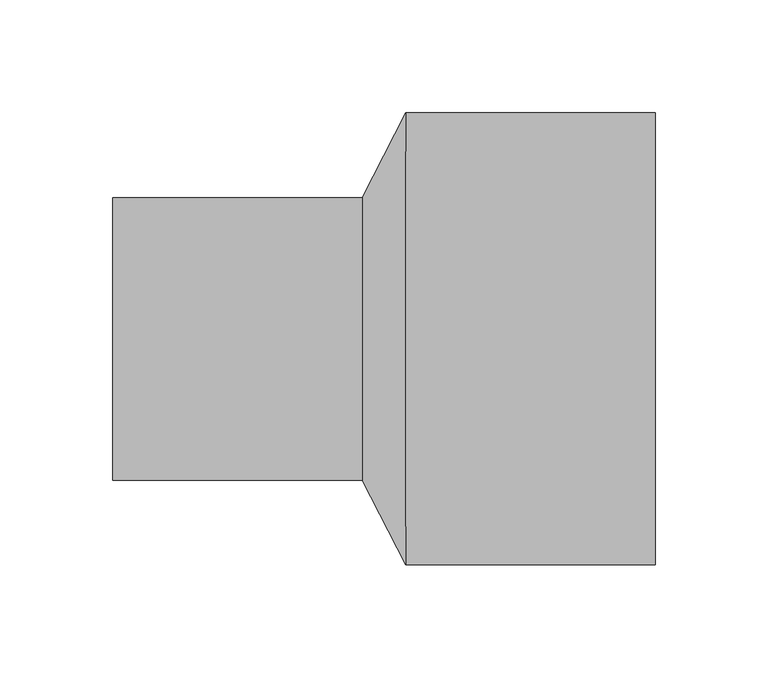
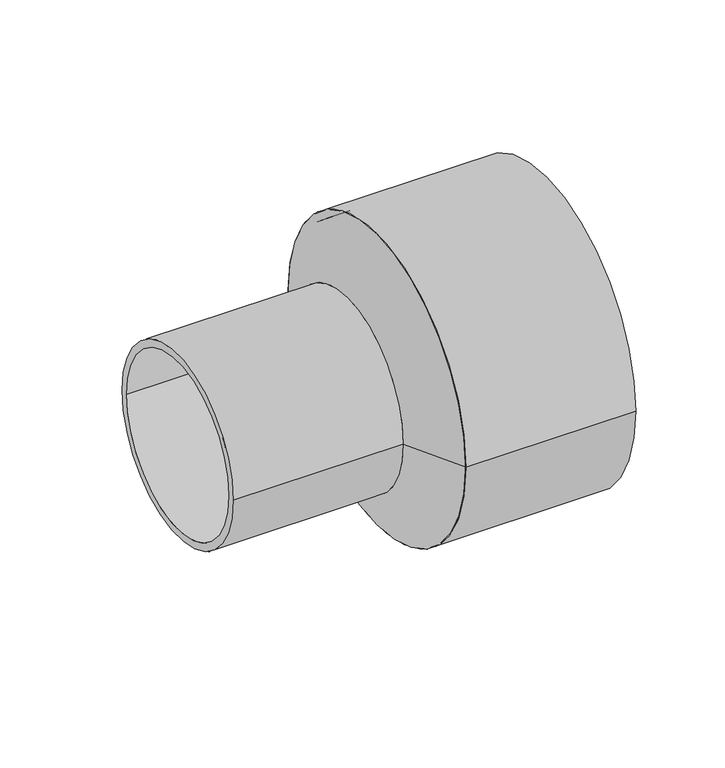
"""IFC4 building model written with IfcOpenShell, lengths in millimetres: pipe fitting geometry, EGB_VASEN_ PPR_Manguito reductor a tope WXRB110 : Manguito reductor a tope WXRB110."""

from ifc_helpers import new_model, si_unit, point, frame, origin, origin_2d, place, context, project, spatial, polyline, circle_curve, trimmed, segment, composite_curve, outline, extrude, source, transform, mapped, element, save
from ifc_brep_helpers import plane_surface, revolved_surface, advanced_brep


def pipe_fitting_ced41f43(model_context):
    return source(origin(), model_context, "Body", "SolidModel", [
        extrude(outline(composite_curve([segment(trimmed(circle_curve(origin_2d(), 100.0), [point((-100.0, 0.0))], [point((100.0, 0.0))], False, "CARTESIAN"), True, "CONTINUOUS"), segment(trimmed(circle_curve(origin_2d(), 100.0), [point((100.0, 0.0))], [point((-100.0, 0.0))], False, "CARTESIAN"), True, "CONTINUOUS")], self_intersect=False), holes=[composite_curve([segment(trimmed(circle_curve(origin_2d(), 95.0), [point((-95.0, 0.0))], [point((95.0, 0.0))], True, "CARTESIAN"), True, "CONTINUOUS"), segment(trimmed(circle_curve(origin_2d(), 95.0), [point((95.0, 0.0))], [point((-95.0, 0.0))], True, "CARTESIAN"), True, "CONTINUOUS")], self_intersect=False)]), frame((9.6, 0.0, 0.0), z_axis=(1.0, 0.0, 0.0), x_axis=(0.0, 1.0, 0.0)), (0.0, 0.0, 1.0), 110.4),
        extrude(outline(composite_curve([segment(trimmed(circle_curve(origin_2d(), 62.5), [point((-62.5, 0.0))], [point((62.5, 0.0))], False, "CARTESIAN"), True, "CONTINUOUS"), segment(trimmed(circle_curve(origin_2d(), 62.5), [point((62.5, 0.0))], [point((-62.5, 0.0))], False, "CARTESIAN"), True, "CONTINUOUS")], self_intersect=False), holes=[composite_curve([segment(trimmed(circle_curve(origin_2d(), 57.5), [point((-57.5, 0.0))], [point((57.5, 0.0))], True, "CARTESIAN"), True, "CONTINUOUS"), segment(trimmed(circle_curve(origin_2d(), 57.5), [point((57.5, 0.0))], [point((-57.5, 0.0))], True, "CARTESIAN"), True, "CONTINUOUS")], self_intersect=False)]), frame((-120.0, 0.0, 0.0), z_axis=(1.0, 0.0, 0.0), x_axis=(0.0, 1.0, 0.0)), (0.0, 0.0, 1.0), 110.4),
        advanced_brep(
        [(9.6, -100.0, 0.0), (9.6, 100.0, 0.0), (-9.6, -62.5, 0.0), (-9.6, 62.5, 0.0)],
        [
            (0, 1, circle_curve(frame((9.6, 0.0, 0.0), z_axis=(1.0, 0.0, 0.0), x_axis=(0.0, -1.0, 0.0)), 100.0)),
            (1, 0, circle_curve(frame((9.6, 0.0, 0.0), z_axis=(1.0, 0.0, 0.0), x_axis=(0.0, 1.0, 0.0)), 100.0)),
            (2, 3, circle_curve(frame((-9.6, 0.0, 0.0), z_axis=(-1.0, 0.0, 0.0), x_axis=(0.0, 1.0, 0.0)), 62.5)),
            (3, 2, circle_curve(frame((-9.6, 0.0, 0.0), z_axis=(-1.0, 0.0, 0.0), x_axis=(0.0, -1.0, 0.0)), 62.5)),
            (3, 1),
            (0, 2),
        ],
        [
            plane_surface(frame((9.6, 0.0, 0.0), z_axis=(1.0, 0.0, 0.0), x_axis=(0.0, 0.0, -1.0))),
            plane_surface(frame((-9.6, 0.0, 0.0), z_axis=(-1.0, 0.0, 0.0), x_axis=(0.0, 0.0, -1.0))),
            revolved_surface(polyline([(-9.600000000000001, 62.5, 0.0), (9.600000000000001, 100.0, 0.0)]), (-41.6, 0.0, 0.0), (1.0, 0.0, 0.0)),
            revolved_surface(polyline([(-9.600000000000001, -62.5, 0.0), (9.600000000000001, -100.0, 0.0)]), (-41.6, 0.0, 0.0), (1.0, 0.0, 0.0)),
        ],
        [
            (0, [[1, 2]]),
            (1, [[3, 4]]),
            (2, [[-4, 5, -1, 6]]),
            (3, [[-3, -6, -2, -5]]),
        ],
    ),
    ])


if __name__ == "__main__":
    model = new_model("IFC4")
    model_context = context("Model", 3, world=origin())
    ifc_project = project(units=[si_unit("LENGTHUNIT", "METRE", prefix="MILLI")], contexts=[model_context])
    site = spatial("IfcSite", under=ifc_project)
    building = spatial("IfcBuilding", under=site)
    placement = place(None, origin())
    pipe_fitting_shape = pipe_fitting_ced41f43(model_context)
    element("IfcPipeFitting", 1, ObjectType="EGB_VASEN_ PPR_Manguito reductor a tope WXRB110 : Manguito reductor a tope WXRB110", at=placement, inside=building, context=model_context, shape_type="MappedRepresentation", body=[
        mapped(pipe_fitting_shape, transform((0.0, 0.0, 0.0), x_axis=(1.0, 0.0, 0.0), y_axis=(0.0, 1.0, 0.0), z_axis=(0.0, 0.0, 1.0))),
    ])
    save(model, "model.ifc")
